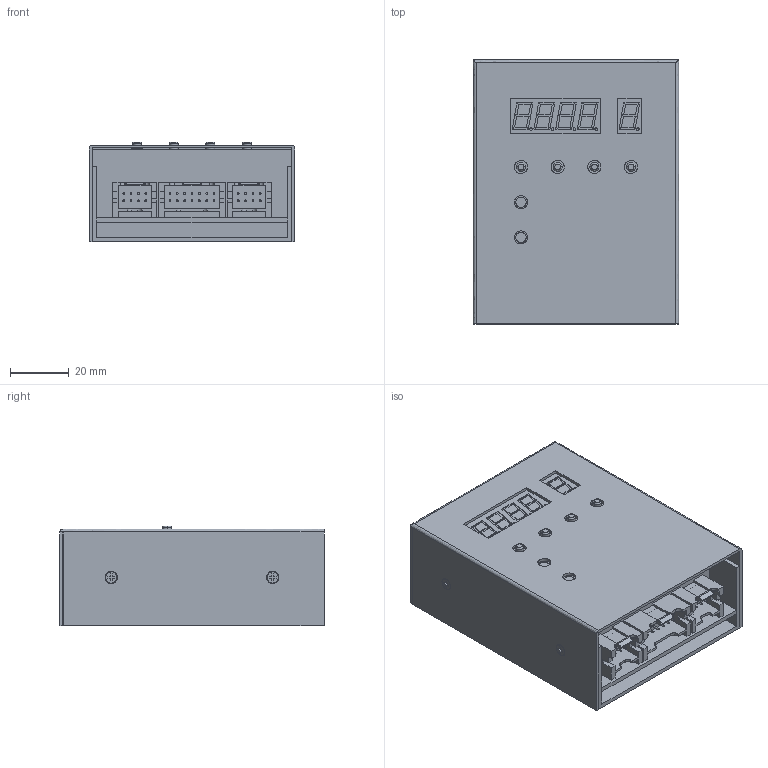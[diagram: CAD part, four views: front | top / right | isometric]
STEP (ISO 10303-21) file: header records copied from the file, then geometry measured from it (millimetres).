
FILE_DESCRIPTION (( 'STEP AP214' ), '1' );
FILE_NAME ('PDSA-UT_3D.STEP', '2021-12-24T04:05:15', ( '' ), ( '' ), 'SwSTEP 2.0', 'SolidWorks 2018', '' );
FILE_SCHEMA (( 'AUTOMOTIVE_DESIGN' ));
Length unit declared in the file: millimetre
Products named in the file (1): PDSA-UT_3D
Bounding box: 70 x 90 x 34 mm (x, y, z)
Surface area: 57040.7 mm2 (no closed solid volume)
Topology: 0 solids, 12 shells, 630 faces, 1570 edges, 1040 vertices
Faces by surface type: bspline 630
Entity records: 20749 total; most frequent: CARTESIAN_POINT 10172, ORIENTED_EDGE 3112, EDGE_CURVE 1570, B_SPLINE_CURVE_WITH_KNOTS 1455, VERTEX_POINT 1040, EDGE_LOOP 732, FACE_OUTER_BOUND 630, ADVANCED_FACE 630
